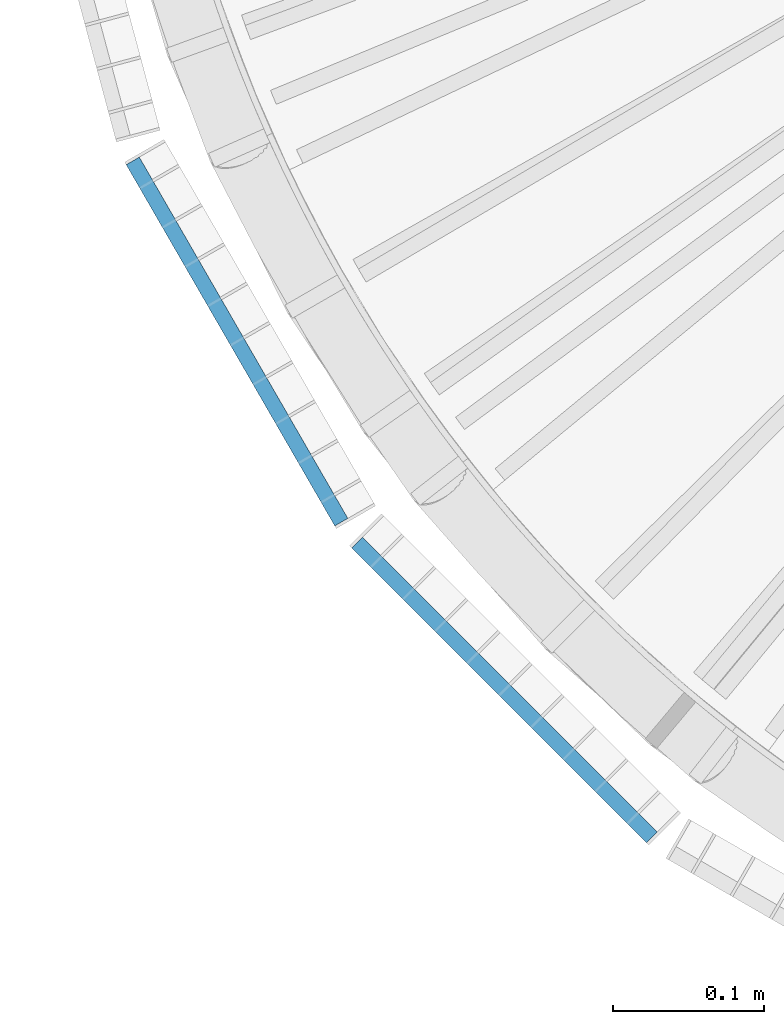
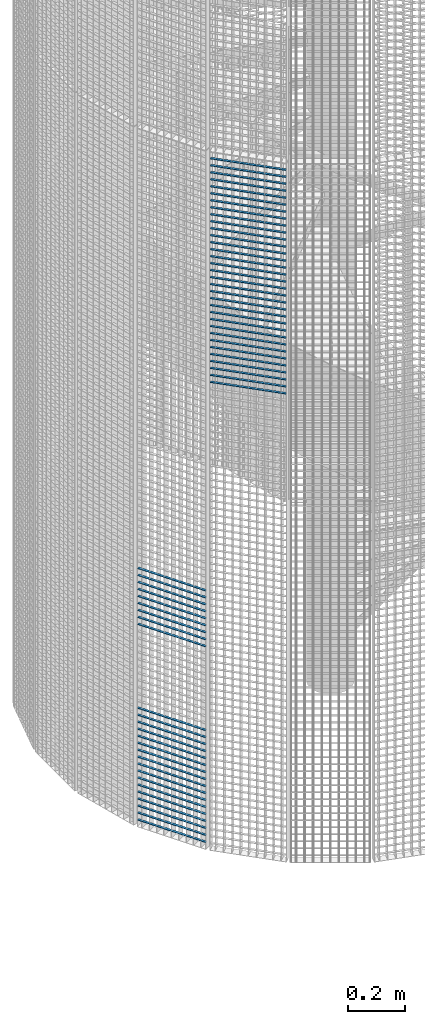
# One storey, part 368 of 1148: 59 beams, 2 elements without a shape of their own.
"""IFC2X3 building model written with IfcOpenShell, lengths in millimetres."""

import ifcopenshell
import ifcopenshell.guid

model = None  # the IFC model being written
_history = None  # IfcOwnerHistory: only IFC2X3 demands one
_inside = {}  # id of a spatial element -> (the spatial element, [elements in it])
_under = {}  # id of a project, library or spatial element -> (it, [spatial elements below it])
_declared = {}  # id of a project -> (the project, [libraries it declares])
_typed = {}  # id of a type object -> (the type object, [elements of that type])
_made_of = {}  # id of a material, layer set ... -> (it, [elements and type objects made of it])


def new_model(schema):
    """Start an empty IFC model of exactly this schema.

    Asked for "IFC4X3", IfcOpenShell would pick the latest addendum, in which some entities
    have other attributes; the version numbers below select the first issue.
    IFC2X3 requires an IfcOwnerHistory on every rooted entity: one is made here for all.
    """
    global model, _history
    if schema == "IFC4X3":
        model = ifcopenshell.file(schema_version=(4, 3, 0, 0))
    else:
        model = ifcopenshell.file(schema=schema)
    _inside.clear()
    _under.clear()
    _declared.clear()
    _typed.clear()
    _made_of.clear()
    _history = None
    if model.schema == "IFC2X3":
        org = make("IfcOrganization", Name="unknown")
        user = make(
            "IfcPersonAndOrganization",
            ThePerson=make("IfcPerson", FamilyName="unknown"),
            TheOrganization=org,
        )
        app = make(
            "IfcApplication",
            ApplicationDeveloper=org,
            Version="unknown",
            ApplicationFullName="unknown",
            ApplicationIdentifier="unknown",
        )
        _history = make(
            "IfcOwnerHistory",
            OwningUser=user,
            OwningApplication=app,
            ChangeAction="ADDED",
            CreationDate=0,
        )
    return model


def make(cls, **values):
    """One entity of the class cls with the attributes given. An attribute that is None is left unset."""
    return model.create_entity(
        cls, **{name: value for name, value in values.items() if value is not None}
    )


def rooted(cls, **values):
    """An entity with a GlobalId (a new one), such as an element, a storey or a relation."""
    return make(cls, GlobalId=ifcopenshell.guid.new(), OwnerHistory=_history, **values)


def si_unit(unit_type, name, prefix=None):
    """IfcSIUnit, for example si_unit("LENGTHUNIT", "METRE", prefix="MILLI")."""
    return make("IfcSIUnit", UnitType=unit_type, Prefix=prefix, Name=name)


def assignment(units):
    """IfcUnitAssignment: the units of a project."""
    return None if units is None else make("IfcUnitAssignment", Units=units)


def point(xyz):
    """IfcCartesianPoint."""
    return None if xyz is None else make("IfcCartesianPoint", Coordinates=xyz)


def direction(xyz):
    """IfcDirection."""
    return None if xyz is None else make("IfcDirection", DirectionRatios=xyz)


def frame(location, z_axis=None, x_axis=None):
    """IfcAxis2Placement3D, a coordinate frame: its origin and axes. An axis left out is left unset."""
    return make(
        "IfcAxis2Placement3D",
        Location=point(location),
        Axis=direction(z_axis),
        RefDirection=direction(x_axis),
    )


def frame_2d(location, x_axis=None):
    """IfcAxis2Placement2D, a coordinate frame in the plane: its origin and x axis."""
    return make(
        "IfcAxis2Placement2D", Location=point(location), RefDirection=direction(x_axis)
    )


def origin_with_axes():
    """The frame at (0, 0, 0) with the z axis (0, 0, 1) and the x axis (1, 0, 0) written out."""
    return frame((0.0, 0.0, 0.0), z_axis=(0.0, 0.0, 1.0), x_axis=(1.0, 0.0, 0.0))


def origin_2d_with_axis():
    """The frame at (0, 0) in the plane with the x axis (1, 0) written out."""
    return frame_2d((0.0, 0.0), x_axis=(1.0, 0.0))


def place(relative_to, where):
    """IfcLocalPlacement: puts the frame where relative to a parent placement (None: the world)."""
    return make(
        "IfcLocalPlacement", PlacementRelTo=relative_to, RelativePlacement=where
    )


def context(
    kind, dimensions, precision=None, world=None, true_north=None, identifier=None
):
    """IfcGeometricRepresentationContext, for example the 3D "Model" context."""
    return make(
        "IfcGeometricRepresentationContext",
        ContextIdentifier=identifier,
        ContextType=kind,
        CoordinateSpaceDimension=dimensions,
        Precision=precision,
        WorldCoordinateSystem=world,
        TrueNorth=true_north,
    )


def subcontext(parent, identifier, kind, view, scale=None):
    """IfcGeometricRepresentationSubContext, for example "Body" below "Model"."""
    return make(
        "IfcGeometricRepresentationSubContext",
        ContextIdentifier=identifier,
        ContextType=kind,
        ParentContext=parent,
        TargetScale=scale,
        TargetView=view,
    )


def project(units=None, contexts=None):
    """IfcProject with its units and contexts."""
    return rooted(
        "IfcProject",
        Name="project",
        RepresentationContexts=contexts,
        UnitsInContext=assignment(units),
    )


def spatial(cls, under=None, at=None, **own):
    """A site, building, storey or space (cls), placed at a placement, below another one or the project."""
    s = rooted(cls, ObjectPlacement=at, **own)
    if under is not None:
        _under.setdefault(under.id(), (under, []))[1].append(s)
    return s


def profile(cls, at=None, kind="AREA", **sizes):
    """A parametric profile (cls). Its sizes go by their IFC names, for example OverallWidth=200.0."""
    return make(cls, ProfileType=kind, Position=at, **sizes)


def rectangle(**sizes):
    """IfcRectangleProfileDef."""
    return profile("IfcRectangleProfileDef", **sizes)


def extrude(swept, where, along, depth):
    """IfcExtrudedAreaSolid: the profile swept, set in the frame where, extruded along a direction by depth."""
    return make(
        "IfcExtrudedAreaSolid",
        SweptArea=swept,
        Position=where,
        ExtrudedDirection=direction(along),
        Depth=depth,
    )


def shape(context_of_items, identifier, shape_type, items):
    """IfcShapeRepresentation: the items that make up one representation, for example the "Body"."""
    return make(
        "IfcShapeRepresentation",
        ContextOfItems=context_of_items,
        RepresentationIdentifier=identifier,
        RepresentationType=shape_type,
        Items=items,
    )


def material(Name=None, Category=None):
    """IfcMaterial."""
    return make("IfcMaterial", Name=Name, Category=Category)


def made_of(thing, what):
    """Note that an element or type object is made of a material, layer set ...; save() writes the relation."""
    if what is not None:
        _made_of.setdefault(what.id(), (what, []))[1].append(thing)
    return thing


def type_object(cls, material=None, **own):
    """A type object (cls), such as IfcWallType, which elements share."""
    return made_of(rooted(cls, **own), material)


def element(
    cls,
    number,
    at=None,
    inside=None,
    cuts=None,
    type_object=None,
    material=None,
    context=None,
    identifier="Body",
    shape_type=None,
    held_by="IfcProductDefinitionShape",
    body=None,
    shapes=None,
    **own,
):
    """One element of the class cls, such as IfcWall. Its Tag is "e" and its number.

    at: its placement. inside: the storey or other place that contains it. cuts: it is an
    opening in that element (IfcRelVoidsElement). A single representation is given by context,
    identifier, shape_type and body (its items); several are given by shapes. held_by: the class
    of the entity that holds the representations. save() writes the other relations.
    """
    e = rooted(cls, Tag="e%d" % number, ObjectPlacement=at, **own)
    if body is not None:
        shapes = [shape(context, identifier, shape_type, body)]
    if shapes is not None:
        e.Representation = make(held_by, Representations=shapes)
    if inside is not None:
        _inside.setdefault(inside.id(), (inside, []))[1].append(e)
    if cuts is not None:
        rooted(
            "IfcRelVoidsElement", RelatingBuildingElement=cuts, RelatedOpeningElement=e
        )
    if type_object is not None:
        _typed.setdefault(type_object.id(), (type_object, []))[1].append(e)
    return made_of(e, material)


def aggregate(whole, parts):
    """IfcRelAggregates: a whole, such as a stair, and the parts it consists of."""
    return rooted("IfcRelAggregates", RelatingObject=whole, RelatedObjects=parts)


def save(model, path):
    """Write the relations noted so far, then the file.

    IfcRelAggregates (storeys below a building ...), IfcRelContainedInSpatialStructure (elements
    in a storey), IfcRelDefinesByType, IfcRelAssociatesMaterial and IfcRelDeclares: one each for
    every whole, place, type object, material and project.
    """
    for whole, parts in _under.values():
        aggregate(whole, parts)
    for where, things in _inside.values():
        rooted(
            "IfcRelContainedInSpatialStructure",
            RelatedElements=things,
            RelatingStructure=where,
        )
    for kind, things in _typed.values():
        rooted("IfcRelDefinesByType", RelatedObjects=things, RelatingType=kind)
    for what, things in _made_of.values():
        rooted("IfcRelAssociatesMaterial", RelatedObjects=things, RelatingMaterial=what)
    for by, libraries in _declared.values():
        rooted("IfcRelDeclares", RelatingContext=by, RelatedDefinitions=libraries)
    model.write(path)


model = new_model("IFC2X3")

# Units and contexts
model_context = context("Model", 3, precision=1e-05, world=origin_with_axes())
body_context = subcontext(model_context, "Body", "Model", "MODEL_VIEW")
ifc_project = project(units=[si_unit("LENGTHUNIT", "METRE", prefix="MILLI"), si_unit("AREAUNIT", "SQUARE_METRE"), si_unit("VOLUMEUNIT", "CUBIC_METRE"), si_unit("MASSUNIT", "GRAM", prefix="KILO"), si_unit("TIMEUNIT", "SECOND"), si_unit("PLANEANGLEUNIT", "RADIAN"), si_unit("SOLIDANGLEUNIT", "STERADIAN"), si_unit("THERMODYNAMICTEMPERATUREUNIT", "DEGREE_CELSIUS"), si_unit("LUMINOUSINTENSITYUNIT", "LUMEN")], contexts=[model_context])

# Site, building, storey
site_placement = place(None, origin_with_axes())
site = spatial("IfcSite", under=ifc_project, at=site_placement, Name="Undefined", CompositionType="ELEMENT")
building_placement = place(site_placement, origin_with_axes())
building = spatial("IfcBuilding", under=site, at=building_placement, Name="Undefined", CompositionType="ELEMENT")
storey_placement = place(building_placement, origin_with_axes())
storey = spatial("IfcBuildingStorey", under=building, at=storey_placement, Name="Undefined", CompositionType="ELEMENT", Elevation=0.0)

# Assembly, beams
assembly_1_placement = place(storey_placement, origin_with_axes())
assembly_1 = element("IfcElementAssembly", 1, at=assembly_1_placement, inside=storey, Name="BORDURE", AssemblyPlace="NOTDEFINED", PredefinedType="NOTDEFINED")
ifc_material = material(Name="STEEL/S235JR")
beam_type = type_object("IfcBeamType", Name="PL2*10", PredefinedType="NOTDEFINED")
beam_1_placement = place(assembly_1_placement, frame((20704.6960350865, -676.248044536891, 509.999999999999), z_axis=(-0.866025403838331, -0.499999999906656, 0.0), x_axis=(-0.49999999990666, 0.866025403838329, 0.0)))
beam_1 = element("IfcBeam", 2, at=beam_1_placement, type_object=beam_type, material=ifc_material, Name="ENTRETOISE", context=body_context, shape_type="SweptSolid", body=[
    extrude(rectangle(XDim=2.0, YDim=10.0, at=origin_2d_with_axis()), frame((275.999999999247, 9.09494701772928e-13, 1.53210777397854e-14), z_axis=(-1.0, 0.0, 0.0), x_axis=(0.0, -1.0, 0.0)), (0.0, 0.0, 1.0), 276.0),
])
beam_2_placement = place(assembly_1_placement, frame((20704.6960350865, -676.248044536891, 479.999999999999), z_axis=(-0.866025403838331, -0.499999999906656, 0.0), x_axis=(-0.49999999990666, 0.866025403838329, 0.0)))
beam_2 = element("IfcBeam", 3, at=beam_2_placement, type_object=beam_type, material=ifc_material, Name="ENTRETOISE", context=body_context, shape_type="SweptSolid", body=[
    extrude(rectangle(XDim=2.0, YDim=10.0, at=origin_2d_with_axis()), frame((275.999999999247, 9.09494701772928e-13, 1.53210777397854e-14), z_axis=(-1.0, 0.0, 0.0), x_axis=(0.0, -1.0, 0.0)), (0.0, 0.0, 1.0), 276.0),
])
beam_3_placement = place(assembly_1_placement, frame((20704.6960350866, -676.248044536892, 869.999999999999), z_axis=(-0.866025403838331, -0.499999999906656, 0.0), x_axis=(-0.49999999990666, 0.866025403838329, 0.0)))
beam_3 = element("IfcBeam", 4, at=beam_3_placement, type_object=beam_type, material=ifc_material, Name="ENTRETOISE", context=body_context, shape_type="SweptSolid", body=[
    extrude(rectangle(XDim=2.0, YDim=10.0, at=origin_2d_with_axis()), frame((275.999999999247, 9.09494701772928e-13, 1.53210777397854e-14), z_axis=(-1.0, 0.0, 0.0), x_axis=(0.0, -1.0, 0.0)), (0.0, 0.0, 1.0), 276.0),
])
beam_4_placement = place(assembly_1_placement, frame((20704.6960350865, -676.248044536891, 449.999999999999), z_axis=(-0.866025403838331, -0.499999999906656, 0.0), x_axis=(-0.49999999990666, 0.866025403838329, 0.0)))
beam_4 = element("IfcBeam", 5, at=beam_4_placement, type_object=beam_type, material=ifc_material, Name="ENTRETOISE", context=body_context, shape_type="SweptSolid", body=[
    extrude(rectangle(XDim=2.0, YDim=10.0, at=origin_2d_with_axis()), frame((275.999999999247, 9.09494701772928e-13, 1.53210777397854e-14), z_axis=(-1.0, 0.0, 0.0), x_axis=(0.0, -1.0, 0.0)), (0.0, 0.0, 1.0), 276.0),
])
beam_5_placement = place(assembly_1_placement, frame((20704.6960350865, -676.24804453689, 419.999999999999), z_axis=(-0.866025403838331, -0.499999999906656, 0.0), x_axis=(-0.49999999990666, 0.866025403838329, 0.0)))
beam_5 = element("IfcBeam", 6, at=beam_5_placement, type_object=beam_type, material=ifc_material, Name="ENTRETOISE", context=body_context, shape_type="SweptSolid", body=[
    extrude(rectangle(XDim=2.0, YDim=10.0, at=origin_2d_with_axis()), frame((275.999999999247, 9.09494701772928e-13, 1.53210777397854e-14), z_axis=(-1.0, 0.0, 0.0), x_axis=(0.0, -1.0, 0.0)), (0.0, 0.0, 1.0), 276.0),
])
beam_6_placement = place(assembly_1_placement, frame((20704.6960350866, -676.248044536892, 899.999999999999), z_axis=(-0.866025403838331, -0.499999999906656, 0.0), x_axis=(-0.49999999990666, 0.866025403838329, 0.0)))
beam_6 = element("IfcBeam", 7, at=beam_6_placement, type_object=beam_type, material=ifc_material, Name="ENTRETOISE", context=body_context, shape_type="SweptSolid", body=[
    extrude(rectangle(XDim=2.0, YDim=10.0, at=origin_2d_with_axis()), frame((275.999999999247, 9.09494701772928e-13, 1.53210777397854e-14), z_axis=(-1.0, 0.0, 0.0), x_axis=(0.0, -1.0, 0.0)), (0.0, 0.0, 1.0), 276.0),
])
beam_7_placement = place(assembly_1_placement, frame((20704.6960350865, -676.24804453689, 389.999999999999), z_axis=(-0.866025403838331, -0.499999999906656, 0.0), x_axis=(-0.49999999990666, 0.866025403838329, 0.0)))
beam_7 = element("IfcBeam", 8, at=beam_7_placement, type_object=beam_type, material=ifc_material, Name="ENTRETOISE", context=body_context, shape_type="SweptSolid", body=[
    extrude(rectangle(XDim=2.0, YDim=10.0, at=origin_2d_with_axis()), frame((275.999999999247, 9.09494701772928e-13, 1.53210777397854e-14), z_axis=(-1.0, 0.0, 0.0), x_axis=(0.0, -1.0, 0.0)), (0.0, 0.0, 1.0), 276.0),
])
beam_8_placement = place(assembly_1_placement, frame((20704.6960350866, -676.248044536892, 929.999999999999), z_axis=(-0.866025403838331, -0.499999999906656, 0.0), x_axis=(-0.49999999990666, 0.866025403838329, 0.0)))
beam_8 = element("IfcBeam", 9, at=beam_8_placement, type_object=beam_type, material=ifc_material, Name="ENTRETOISE", context=body_context, shape_type="SweptSolid", body=[
    extrude(rectangle(XDim=2.0, YDim=10.0, at=origin_2d_with_axis()), frame((275.999999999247, 9.09494701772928e-13, 1.53210777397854e-14), z_axis=(-1.0, 0.0, 0.0), x_axis=(0.0, -1.0, 0.0)), (0.0, 0.0, 1.0), 276.0),
])
beam_9_placement = place(assembly_1_placement, frame((20704.6960350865, -676.24804453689, 359.999999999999), z_axis=(-0.866025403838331, -0.499999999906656, 0.0), x_axis=(-0.49999999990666, 0.866025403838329, 0.0)))
beam_9 = element("IfcBeam", 10, at=beam_9_placement, type_object=beam_type, material=ifc_material, Name="ENTRETOISE", context=body_context, shape_type="SweptSolid", body=[
    extrude(rectangle(XDim=2.0, YDim=10.0, at=origin_2d_with_axis()), frame((275.999999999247, 9.09494701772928e-13, 1.53210777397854e-14), z_axis=(-1.0, 0.0, 0.0), x_axis=(0.0, -1.0, 0.0)), (0.0, 0.0, 1.0), 276.0),
])
beam_10_placement = place(assembly_1_placement, frame((20704.6960350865, -676.24804453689, 329.999999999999), z_axis=(-0.866025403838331, -0.499999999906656, 0.0), x_axis=(-0.49999999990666, 0.866025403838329, 0.0)))
beam_10 = element("IfcBeam", 11, at=beam_10_placement, type_object=beam_type, material=ifc_material, Name="ENTRETOISE", context=body_context, shape_type="SweptSolid", body=[
    extrude(rectangle(XDim=2.0, YDim=10.0, at=origin_2d_with_axis()), frame((275.999999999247, 9.09494701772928e-13, 1.53210777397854e-14), z_axis=(-1.0, 0.0, 0.0), x_axis=(0.0, -1.0, 0.0)), (0.0, 0.0, 1.0), 276.0),
])
beam_11_placement = place(assembly_1_placement, frame((20704.6960350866, -676.248044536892, 959.999999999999), z_axis=(-0.866025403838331, -0.499999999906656, 0.0), x_axis=(-0.49999999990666, 0.866025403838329, 0.0)))
beam_11 = element("IfcBeam", 12, at=beam_11_placement, type_object=beam_type, material=ifc_material, Name="ENTRETOISE", context=body_context, shape_type="SweptSolid", body=[
    extrude(rectangle(XDim=2.0, YDim=10.0, at=origin_2d_with_axis()), frame((275.999999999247, 9.09494701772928e-13, 1.53210777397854e-14), z_axis=(-1.0, 0.0, 0.0), x_axis=(0.0, -1.0, 0.0)), (0.0, 0.0, 1.0), 276.0),
])
beam_12_placement = place(assembly_1_placement, frame((20704.6960350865, -676.24804453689, 299.999999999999), z_axis=(-0.866025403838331, -0.499999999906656, 0.0), x_axis=(-0.49999999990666, 0.866025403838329, 0.0)))
beam_12 = element("IfcBeam", 13, at=beam_12_placement, type_object=beam_type, material=ifc_material, Name="ENTRETOISE", context=body_context, shape_type="SweptSolid", body=[
    extrude(rectangle(XDim=2.0, YDim=10.0, at=origin_2d_with_axis()), frame((275.999999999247, 9.09494701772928e-13, 1.53210777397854e-14), z_axis=(-1.0, 0.0, 0.0), x_axis=(0.0, -1.0, 0.0)), (0.0, 0.0, 1.0), 276.0),
])
beam_13_placement = place(assembly_1_placement, frame((20704.6960350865, -676.24804453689, 269.999999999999), z_axis=(-0.866025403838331, -0.499999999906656, 0.0), x_axis=(-0.49999999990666, 0.866025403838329, 0.0)))
beam_13 = element("IfcBeam", 14, at=beam_13_placement, type_object=beam_type, material=ifc_material, Name="ENTRETOISE", context=body_context, shape_type="SweptSolid", body=[
    extrude(rectangle(XDim=2.0, YDim=10.0, at=origin_2d_with_axis()), frame((275.999999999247, 9.09494701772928e-13, 1.53210777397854e-14), z_axis=(-1.0, 0.0, 0.0), x_axis=(0.0, -1.0, 0.0)), (0.0, 0.0, 1.0), 276.0),
])
beam_14_placement = place(assembly_1_placement, frame((20704.6960350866, -676.248044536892, 989.999999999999), z_axis=(-0.866025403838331, -0.499999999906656, 0.0), x_axis=(-0.49999999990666, 0.866025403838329, 0.0)))
beam_14 = element("IfcBeam", 15, at=beam_14_placement, type_object=beam_type, material=ifc_material, Name="ENTRETOISE", context=body_context, shape_type="SweptSolid", body=[
    extrude(rectangle(XDim=2.0, YDim=10.0, at=origin_2d_with_axis()), frame((275.999999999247, 9.09494701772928e-13, 1.53210777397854e-14), z_axis=(-1.0, 0.0, 0.0), x_axis=(0.0, -1.0, 0.0)), (0.0, 0.0, 1.0), 276.0),
])
beam_15_placement = place(assembly_1_placement, frame((20704.6960350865, -676.24804453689, 239.999999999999), z_axis=(-0.866025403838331, -0.499999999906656, 0.0), x_axis=(-0.49999999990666, 0.866025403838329, 0.0)))
beam_15 = element("IfcBeam", 16, at=beam_15_placement, type_object=beam_type, material=ifc_material, Name="ENTRETOISE", context=body_context, shape_type="SweptSolid", body=[
    extrude(rectangle(XDim=2.0, YDim=10.0, at=origin_2d_with_axis()), frame((275.999999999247, 9.09494701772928e-13, 1.53210777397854e-14), z_axis=(-1.0, 0.0, 0.0), x_axis=(0.0, -1.0, 0.0)), (0.0, 0.0, 1.0), 276.0),
])
beam_16_placement = place(assembly_1_placement, frame((20704.6960350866, -676.248044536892, 1020.0), z_axis=(-0.866025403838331, -0.499999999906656, 0.0), x_axis=(-0.49999999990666, 0.866025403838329, 0.0)))
beam_16 = element("IfcBeam", 17, at=beam_16_placement, type_object=beam_type, material=ifc_material, Name="ENTRETOISE", context=body_context, shape_type="SweptSolid", body=[
    extrude(rectangle(XDim=2.0, YDim=10.0, at=origin_2d_with_axis()), frame((275.999999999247, 9.09494701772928e-13, 1.53210777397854e-14), z_axis=(-1.0, 0.0, 0.0), x_axis=(0.0, -1.0, 0.0)), (0.0, 0.0, 1.0), 276.0),
])
beam_17_placement = place(assembly_1_placement, frame((20704.6960350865, -676.24804453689, 209.999999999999), z_axis=(-0.866025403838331, -0.499999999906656, 0.0), x_axis=(-0.49999999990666, 0.866025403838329, 0.0)))
beam_17 = element("IfcBeam", 18, at=beam_17_placement, type_object=beam_type, material=ifc_material, Name="ENTRETOISE", context=body_context, shape_type="SweptSolid", body=[
    extrude(rectangle(XDim=2.0, YDim=10.0, at=origin_2d_with_axis()), frame((275.999999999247, 9.09494701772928e-13, 1.53210777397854e-14), z_axis=(-1.0, 0.0, 0.0), x_axis=(0.0, -1.0, 0.0)), (0.0, 0.0, 1.0), 276.0),
])
beam_18_placement = place(assembly_1_placement, frame((20704.6960350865, -676.24804453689, 179.999999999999), z_axis=(-0.866025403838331, -0.499999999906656, 0.0), x_axis=(-0.49999999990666, 0.866025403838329, 0.0)))
beam_18 = element("IfcBeam", 19, at=beam_18_placement, type_object=beam_type, material=ifc_material, Name="ENTRETOISE", context=body_context, shape_type="SweptSolid", body=[
    extrude(rectangle(XDim=2.0, YDim=10.0, at=origin_2d_with_axis()), frame((275.999999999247, 9.09494701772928e-13, 1.53210777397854e-14), z_axis=(-1.0, 0.0, 0.0), x_axis=(0.0, -1.0, 0.0)), (0.0, 0.0, 1.0), 276.0),
])
beam_19_placement = place(assembly_1_placement, frame((20704.6960350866, -676.248044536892, 1050.0), z_axis=(-0.866025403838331, -0.499999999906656, 0.0), x_axis=(-0.49999999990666, 0.866025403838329, 0.0)))
beam_19 = element("IfcBeam", 20, at=beam_19_placement, type_object=beam_type, material=ifc_material, Name="ENTRETOISE", context=body_context, shape_type="SweptSolid", body=[
    extrude(rectangle(XDim=2.0, YDim=10.0, at=origin_2d_with_axis()), frame((275.999999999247, 9.09494701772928e-13, 1.53210777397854e-14), z_axis=(-1.0, 0.0, 0.0), x_axis=(0.0, -1.0, 0.0)), (0.0, 0.0, 1.0), 276.0),
])
beam_20_placement = place(assembly_1_placement, frame((20704.6960350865, -676.24804453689, 149.999999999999), z_axis=(-0.866025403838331, -0.499999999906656, 0.0), x_axis=(-0.49999999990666, 0.866025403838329, 0.0)))
beam_20 = element("IfcBeam", 21, at=beam_20_placement, type_object=beam_type, material=ifc_material, Name="ENTRETOISE", context=body_context, shape_type="SweptSolid", body=[
    extrude(rectangle(XDim=2.0, YDim=10.0, at=origin_2d_with_axis()), frame((275.999999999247, 9.09494701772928e-13, 1.53210777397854e-14), z_axis=(-1.0, 0.0, 0.0), x_axis=(0.0, -1.0, 0.0)), (0.0, 0.0, 1.0), 276.0),
])
beam_21_placement = place(assembly_1_placement, frame((20704.6960350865, -676.24804453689, 119.999999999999), z_axis=(-0.866025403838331, -0.499999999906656, 0.0), x_axis=(-0.49999999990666, 0.866025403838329, 0.0)))
beam_21 = element("IfcBeam", 22, at=beam_21_placement, type_object=beam_type, material=ifc_material, Name="ENTRETOISE", context=body_context, shape_type="SweptSolid", body=[
    extrude(rectangle(XDim=2.0, YDim=10.0, at=origin_2d_with_axis()), frame((275.999999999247, 9.09494701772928e-13, 1.53210777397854e-14), z_axis=(-1.0, 0.0, 0.0), x_axis=(0.0, -1.0, 0.0)), (0.0, 0.0, 1.0), 276.0),
])
beam_22_placement = place(assembly_1_placement, frame((20704.6960350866, -676.248044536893, 1080.0), z_axis=(-0.866025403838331, -0.499999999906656, 0.0), x_axis=(-0.49999999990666, 0.866025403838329, 0.0)))
beam_22 = element("IfcBeam", 23, at=beam_22_placement, type_object=beam_type, material=ifc_material, Name="ENTRETOISE", context=body_context, shape_type="SweptSolid", body=[
    extrude(rectangle(XDim=2.0, YDim=10.0, at=origin_2d_with_axis()), frame((275.999999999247, 9.09494701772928e-13, 1.53210777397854e-14), z_axis=(-1.0, 0.0, 0.0), x_axis=(0.0, -1.0, 0.0)), (0.0, 0.0, 1.0), 276.0),
])
beam_23_placement = place(assembly_1_placement, frame((20704.6960350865, -676.248044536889, 89.9999999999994), z_axis=(-0.866025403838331, -0.499999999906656, 0.0), x_axis=(-0.49999999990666, 0.866025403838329, 0.0)))
beam_23 = element("IfcBeam", 24, at=beam_23_placement, type_object=beam_type, material=ifc_material, Name="ENTRETOISE", context=body_context, shape_type="SweptSolid", body=[
    extrude(rectangle(XDim=2.0, YDim=10.0, at=origin_2d_with_axis()), frame((275.999999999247, 9.09494701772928e-13, 1.53210777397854e-14), z_axis=(-1.0, 0.0, 0.0), x_axis=(0.0, -1.0, 0.0)), (0.0, 0.0, 1.0), 276.0),
])
beam_24_placement = place(assembly_1_placement, frame((20704.6960350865, -676.248044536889, 59.9999999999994), z_axis=(-0.866025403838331, -0.499999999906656, 0.0), x_axis=(-0.49999999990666, 0.866025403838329, 0.0)))
beam_24 = element("IfcBeam", 25, at=beam_24_placement, type_object=beam_type, material=ifc_material, Name="ENTRETOISE", context=body_context, shape_type="SweptSolid", body=[
    extrude(rectangle(XDim=2.0, YDim=10.0, at=origin_2d_with_axis()), frame((275.999999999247, 9.09494701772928e-13, 1.53210777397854e-14), z_axis=(-1.0, 0.0, 0.0), x_axis=(0.0, -1.0, 0.0)), (0.0, 0.0, 1.0), 276.0),
])
beam_25_placement = place(assembly_1_placement, frame((20704.6960350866, -676.248044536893, 1110.0), z_axis=(-0.866025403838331, -0.499999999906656, 0.0), x_axis=(-0.49999999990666, 0.866025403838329, 0.0)))
beam_25 = element("IfcBeam", 26, at=beam_25_placement, type_object=beam_type, material=ifc_material, Name="ENTRETOISE", context=body_context, shape_type="SweptSolid", body=[
    extrude(rectangle(XDim=2.0, YDim=10.0, at=origin_2d_with_axis()), frame((275.999999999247, 9.09494701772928e-13, 1.53210777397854e-14), z_axis=(-1.0, 0.0, 0.0), x_axis=(0.0, -1.0, 0.0)), (0.0, 0.0, 1.0), 276.0),
])
beam_26_placement = place(assembly_1_placement, frame((20704.6960350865, -676.248044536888, 29.9999999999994), z_axis=(-0.866025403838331, -0.499999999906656, 0.0), x_axis=(-0.49999999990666, 0.866025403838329, 0.0)))
beam_26 = element("IfcBeam", 27, at=beam_26_placement, type_object=beam_type, material=ifc_material, Name="ENTRETOISE", context=body_context, shape_type="SweptSolid", body=[
    extrude(rectangle(XDim=2.0, YDim=10.0, at=origin_2d_with_axis()), frame((275.999999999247, 9.09494701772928e-13, 1.53210777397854e-14), z_axis=(-1.0, 0.0, 0.0), x_axis=(0.0, -1.0, 0.0)), (0.0, 0.0, 1.0), 276.0),
])
aggregate(assembly_1, [beam_1, beam_2, beam_3, beam_4, beam_5, beam_6, beam_7, beam_8, beam_9, beam_10, beam_11, beam_12, beam_13, beam_14, beam_15, beam_16, beam_17, beam_18, beam_19, beam_20, beam_21, beam_22, beam_23, beam_24, beam_25, beam_26])

assembly_2_placement = place(storey_placement, origin_with_axes())
assembly_2 = element("IfcElementAssembly", 28, at=assembly_2_placement, inside=storey, Name="BORDURE", AssemblyPlace="NOTDEFINED", PredefinedType="NOTDEFINED")
beam_27_placement = place(assembly_2_placement, frame((20910.2286510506, -884.927168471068, 2970.0), z_axis=(-0.70710678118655, -0.707106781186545, 0.0), x_axis=(-0.707106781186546, 0.707106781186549, 0.0)))
beam_27 = element("IfcBeam", 29, at=beam_27_placement, type_object=beam_type, material=ifc_material, Name="ENTRETOISE", context=body_context, shape_type="SweptSolid", body=[
    extrude(rectangle(XDim=2.0, YDim=10.0, at=origin_2d_with_axis()), frame((275.999999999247, 9.09494701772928e-13, 1.53210777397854e-14), z_axis=(-1.0, 0.0, 0.0), x_axis=(0.0, -1.0, 0.0)), (0.0, 0.0, 1.0), 276.0),
])
beam_28_placement = place(assembly_2_placement, frame((20910.2286510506, -884.927168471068, 2940.0), z_axis=(-0.70710678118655, -0.707106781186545, 0.0), x_axis=(-0.707106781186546, 0.707106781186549, 0.0)))
beam_28 = element("IfcBeam", 30, at=beam_28_placement, type_object=beam_type, material=ifc_material, Name="ENTRETOISE", context=body_context, shape_type="SweptSolid", body=[
    extrude(rectangle(XDim=2.0, YDim=10.0, at=origin_2d_with_axis()), frame((275.999999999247, 9.09494701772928e-13, 1.53210777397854e-14), z_axis=(-1.0, 0.0, 0.0), x_axis=(0.0, -1.0, 0.0)), (0.0, 0.0, 1.0), 276.0),
])
beam_29_placement = place(assembly_2_placement, frame((20910.2286510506, -884.927168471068, 2910.0), z_axis=(-0.70710678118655, -0.707106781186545, 0.0), x_axis=(-0.707106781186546, 0.707106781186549, 0.0)))
beam_29 = element("IfcBeam", 31, at=beam_29_placement, type_object=beam_type, material=ifc_material, Name="ENTRETOISE", context=body_context, shape_type="SweptSolid", body=[
    extrude(rectangle(XDim=2.0, YDim=10.0, at=origin_2d_with_axis()), frame((275.999999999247, 9.09494701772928e-13, 1.53210777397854e-14), z_axis=(-1.0, 0.0, 0.0), x_axis=(0.0, -1.0, 0.0)), (0.0, 0.0, 1.0), 276.0),
])
beam_30_placement = place(assembly_2_placement, frame((20910.2286510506, -884.927168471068, 2880.0), z_axis=(-0.70710678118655, -0.707106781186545, 0.0), x_axis=(-0.707106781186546, 0.707106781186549, 0.0)))
beam_30 = element("IfcBeam", 32, at=beam_30_placement, type_object=beam_type, material=ifc_material, Name="ENTRETOISE", context=body_context, shape_type="SweptSolid", body=[
    extrude(rectangle(XDim=2.0, YDim=10.0, at=origin_2d_with_axis()), frame((275.999999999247, 9.09494701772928e-13, 1.53210777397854e-14), z_axis=(-1.0, 0.0, 0.0), x_axis=(0.0, -1.0, 0.0)), (0.0, 0.0, 1.0), 276.0),
])
beam_31_placement = place(assembly_2_placement, frame((20910.2286510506, -884.927168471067, 2850.0), z_axis=(-0.70710678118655, -0.707106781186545, 0.0), x_axis=(-0.707106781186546, 0.707106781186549, 0.0)))
beam_31 = element("IfcBeam", 33, at=beam_31_placement, type_object=beam_type, material=ifc_material, Name="ENTRETOISE", context=body_context, shape_type="SweptSolid", body=[
    extrude(rectangle(XDim=2.0, YDim=10.0, at=origin_2d_with_axis()), frame((275.999999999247, 9.09494701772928e-13, 1.53210777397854e-14), z_axis=(-1.0, 0.0, 0.0), x_axis=(0.0, -1.0, 0.0)), (0.0, 0.0, 1.0), 276.0),
])
beam_32_placement = place(assembly_2_placement, frame((20910.2286510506, -884.927168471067, 2820.0), z_axis=(-0.70710678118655, -0.707106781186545, 0.0), x_axis=(-0.707106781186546, 0.707106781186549, 0.0)))
beam_32 = element("IfcBeam", 34, at=beam_32_placement, type_object=beam_type, material=ifc_material, Name="ENTRETOISE", context=body_context, shape_type="SweptSolid", body=[
    extrude(rectangle(XDim=2.0, YDim=10.0, at=origin_2d_with_axis()), frame((275.999999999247, 9.09494701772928e-13, 1.53210777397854e-14), z_axis=(-1.0, 0.0, 0.0), x_axis=(0.0, -1.0, 0.0)), (0.0, 0.0, 1.0), 276.0),
])
beam_33_placement = place(assembly_2_placement, frame((20910.2286510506, -884.927168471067, 2790.0), z_axis=(-0.70710678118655, -0.707106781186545, 0.0), x_axis=(-0.707106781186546, 0.707106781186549, 0.0)))
beam_33 = element("IfcBeam", 35, at=beam_33_placement, type_object=beam_type, material=ifc_material, Name="ENTRETOISE", context=body_context, shape_type="SweptSolid", body=[
    extrude(rectangle(XDim=2.0, YDim=10.0, at=origin_2d_with_axis()), frame((275.999999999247, 9.09494701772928e-13, 1.53210777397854e-14), z_axis=(-1.0, 0.0, 0.0), x_axis=(0.0, -1.0, 0.0)), (0.0, 0.0, 1.0), 276.0),
])
beam_34_placement = place(assembly_2_placement, frame((20910.2286510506, -884.927168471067, 2760.0), z_axis=(-0.70710678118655, -0.707106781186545, 0.0), x_axis=(-0.707106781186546, 0.707106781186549, 0.0)))
beam_34 = element("IfcBeam", 36, at=beam_34_placement, type_object=beam_type, material=ifc_material, Name="ENTRETOISE", context=body_context, shape_type="SweptSolid", body=[
    extrude(rectangle(XDim=2.0, YDim=10.0, at=origin_2d_with_axis()), frame((275.999999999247, 9.09494701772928e-13, 1.53210777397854e-14), z_axis=(-1.0, 0.0, 0.0), x_axis=(0.0, -1.0, 0.0)), (0.0, 0.0, 1.0), 276.0),
])
beam_35_placement = place(assembly_2_placement, frame((20910.2286510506, -884.927168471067, 2730.0), z_axis=(-0.70710678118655, -0.707106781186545, 0.0), x_axis=(-0.707106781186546, 0.707106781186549, 0.0)))
beam_35 = element("IfcBeam", 37, at=beam_35_placement, type_object=beam_type, material=ifc_material, Name="ENTRETOISE", context=body_context, shape_type="SweptSolid", body=[
    extrude(rectangle(XDim=2.0, YDim=10.0, at=origin_2d_with_axis()), frame((275.999999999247, 9.09494701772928e-13, 1.53210777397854e-14), z_axis=(-1.0, 0.0, 0.0), x_axis=(0.0, -1.0, 0.0)), (0.0, 0.0, 1.0), 276.0),
])
beam_36_placement = place(assembly_2_placement, frame((20910.2286510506, -884.927168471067, 2700.0), z_axis=(-0.70710678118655, -0.707106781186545, 0.0), x_axis=(-0.707106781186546, 0.707106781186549, 0.0)))
beam_36 = element("IfcBeam", 38, at=beam_36_placement, type_object=beam_type, material=ifc_material, Name="ENTRETOISE", context=body_context, shape_type="SweptSolid", body=[
    extrude(rectangle(XDim=2.0, YDim=10.0, at=origin_2d_with_axis()), frame((275.999999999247, 9.09494701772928e-13, 1.53210777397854e-14), z_axis=(-1.0, 0.0, 0.0), x_axis=(0.0, -1.0, 0.0)), (0.0, 0.0, 1.0), 276.0),
])
beam_37_placement = place(assembly_2_placement, frame((20910.2286510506, -884.927168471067, 2670.0), z_axis=(-0.70710678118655, -0.707106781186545, 0.0), x_axis=(-0.707106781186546, 0.707106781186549, 0.0)))
beam_37 = element("IfcBeam", 39, at=beam_37_placement, type_object=beam_type, material=ifc_material, Name="ENTRETOISE", context=body_context, shape_type="SweptSolid", body=[
    extrude(rectangle(XDim=2.0, YDim=10.0, at=origin_2d_with_axis()), frame((275.999999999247, 9.09494701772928e-13, 1.53210777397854e-14), z_axis=(-1.0, 0.0, 0.0), x_axis=(0.0, -1.0, 0.0)), (0.0, 0.0, 1.0), 276.0),
])
beam_38_placement = place(assembly_2_placement, frame((20910.2286510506, -884.927168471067, 2640.0), z_axis=(-0.70710678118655, -0.707106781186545, 0.0), x_axis=(-0.707106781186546, 0.707106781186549, 0.0)))
beam_38 = element("IfcBeam", 40, at=beam_38_placement, type_object=beam_type, material=ifc_material, Name="ENTRETOISE", context=body_context, shape_type="SweptSolid", body=[
    extrude(rectangle(XDim=2.0, YDim=10.0, at=origin_2d_with_axis()), frame((275.999999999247, 9.09494701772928e-13, 1.53210777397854e-14), z_axis=(-1.0, 0.0, 0.0), x_axis=(0.0, -1.0, 0.0)), (0.0, 0.0, 1.0), 276.0),
])
beam_39_placement = place(assembly_2_placement, frame((20910.2286510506, -884.927168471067, 2610.0), z_axis=(-0.70710678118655, -0.707106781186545, 0.0), x_axis=(-0.707106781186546, 0.707106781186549, 0.0)))
beam_39 = element("IfcBeam", 41, at=beam_39_placement, type_object=beam_type, material=ifc_material, Name="ENTRETOISE", context=body_context, shape_type="SweptSolid", body=[
    extrude(rectangle(XDim=2.0, YDim=10.0, at=origin_2d_with_axis()), frame((275.999999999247, 9.09494701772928e-13, 1.53210777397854e-14), z_axis=(-1.0, 0.0, 0.0), x_axis=(0.0, -1.0, 0.0)), (0.0, 0.0, 1.0), 276.0),
])
beam_40_placement = place(assembly_2_placement, frame((20910.2286510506, -884.927168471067, 2580.0), z_axis=(-0.70710678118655, -0.707106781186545, 0.0), x_axis=(-0.707106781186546, 0.707106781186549, 0.0)))
beam_40 = element("IfcBeam", 42, at=beam_40_placement, type_object=beam_type, material=ifc_material, Name="ENTRETOISE", context=body_context, shape_type="SweptSolid", body=[
    extrude(rectangle(XDim=2.0, YDim=10.0, at=origin_2d_with_axis()), frame((275.999999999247, 9.09494701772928e-13, 1.53210777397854e-14), z_axis=(-1.0, 0.0, 0.0), x_axis=(0.0, -1.0, 0.0)), (0.0, 0.0, 1.0), 276.0),
])
beam_41_placement = place(assembly_2_placement, frame((20910.2286510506, -884.927168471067, 2550.0), z_axis=(-0.70710678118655, -0.707106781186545, 0.0), x_axis=(-0.707106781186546, 0.707106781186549, 0.0)))
beam_41 = element("IfcBeam", 43, at=beam_41_placement, type_object=beam_type, material=ifc_material, Name="ENTRETOISE", context=body_context, shape_type="SweptSolid", body=[
    extrude(rectangle(XDim=2.0, YDim=10.0, at=origin_2d_with_axis()), frame((275.999999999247, 9.09494701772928e-13, 1.53210777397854e-14), z_axis=(-1.0, 0.0, 0.0), x_axis=(0.0, -1.0, 0.0)), (0.0, 0.0, 1.0), 276.0),
])
beam_42_placement = place(assembly_2_placement, frame((20910.2286510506, -884.927168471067, 2520.0), z_axis=(-0.70710678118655, -0.707106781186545, 0.0), x_axis=(-0.707106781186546, 0.707106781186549, 0.0)))
beam_42 = element("IfcBeam", 44, at=beam_42_placement, type_object=beam_type, material=ifc_material, Name="ENTRETOISE", context=body_context, shape_type="SweptSolid", body=[
    extrude(rectangle(XDim=2.0, YDim=10.0, at=origin_2d_with_axis()), frame((275.999999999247, 9.09494701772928e-13, 1.53210777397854e-14), z_axis=(-1.0, 0.0, 0.0), x_axis=(0.0, -1.0, 0.0)), (0.0, 0.0, 1.0), 276.0),
])
beam_43_placement = place(assembly_2_placement, frame((20910.2286510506, -884.927168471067, 2490.0), z_axis=(-0.70710678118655, -0.707106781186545, 0.0), x_axis=(-0.707106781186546, 0.707106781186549, 0.0)))
beam_43 = element("IfcBeam", 45, at=beam_43_placement, type_object=beam_type, material=ifc_material, Name="ENTRETOISE", context=body_context, shape_type="SweptSolid", body=[
    extrude(rectangle(XDim=2.0, YDim=10.0, at=origin_2d_with_axis()), frame((275.999999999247, 9.09494701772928e-13, 1.53210777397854e-14), z_axis=(-1.0, 0.0, 0.0), x_axis=(0.0, -1.0, 0.0)), (0.0, 0.0, 1.0), 276.0),
])
beam_44_placement = place(assembly_2_placement, frame((20910.2286510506, -884.927168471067, 2460.0), z_axis=(-0.70710678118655, -0.707106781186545, 0.0), x_axis=(-0.707106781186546, 0.707106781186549, 0.0)))
beam_44 = element("IfcBeam", 46, at=beam_44_placement, type_object=beam_type, material=ifc_material, Name="ENTRETOISE", context=body_context, shape_type="SweptSolid", body=[
    extrude(rectangle(XDim=2.0, YDim=10.0, at=origin_2d_with_axis()), frame((275.999999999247, 9.09494701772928e-13, 1.53210777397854e-14), z_axis=(-1.0, 0.0, 0.0), x_axis=(0.0, -1.0, 0.0)), (0.0, 0.0, 1.0), 276.0),
])
beam_45_placement = place(assembly_2_placement, frame((20910.2286510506, -884.927168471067, 2430.0), z_axis=(-0.70710678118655, -0.707106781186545, 0.0), x_axis=(-0.707106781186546, 0.707106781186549, 0.0)))
beam_45 = element("IfcBeam", 47, at=beam_45_placement, type_object=beam_type, material=ifc_material, Name="ENTRETOISE", context=body_context, shape_type="SweptSolid", body=[
    extrude(rectangle(XDim=2.0, YDim=10.0, at=origin_2d_with_axis()), frame((275.999999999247, 9.09494701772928e-13, 1.53210777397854e-14), z_axis=(-1.0, 0.0, 0.0), x_axis=(0.0, -1.0, 0.0)), (0.0, 0.0, 1.0), 276.0),
])
beam_46_placement = place(assembly_2_placement, frame((20910.2286510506, -884.927168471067, 2400.0), z_axis=(-0.70710678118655, -0.707106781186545, 0.0), x_axis=(-0.707106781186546, 0.707106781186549, 0.0)))
beam_46 = element("IfcBeam", 48, at=beam_46_placement, type_object=beam_type, material=ifc_material, Name="ENTRETOISE", context=body_context, shape_type="SweptSolid", body=[
    extrude(rectangle(XDim=2.0, YDim=10.0, at=origin_2d_with_axis()), frame((275.999999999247, 9.09494701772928e-13, 1.53210777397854e-14), z_axis=(-1.0, 0.0, 0.0), x_axis=(0.0, -1.0, 0.0)), (0.0, 0.0, 1.0), 276.0),
])
beam_47_placement = place(assembly_2_placement, frame((20910.2286510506, -884.927168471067, 2370.0), z_axis=(-0.70710678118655, -0.707106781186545, 0.0), x_axis=(-0.707106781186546, 0.707106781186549, 0.0)))
beam_47 = element("IfcBeam", 49, at=beam_47_placement, type_object=beam_type, material=ifc_material, Name="ENTRETOISE", context=body_context, shape_type="SweptSolid", body=[
    extrude(rectangle(XDim=2.0, YDim=10.0, at=origin_2d_with_axis()), frame((275.999999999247, 9.09494701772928e-13, 1.53210777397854e-14), z_axis=(-1.0, 0.0, 0.0), x_axis=(0.0, -1.0, 0.0)), (0.0, 0.0, 1.0), 276.0),
])
beam_48_placement = place(assembly_2_placement, frame((20910.2286510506, -884.927168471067, 2340.0), z_axis=(-0.70710678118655, -0.707106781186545, 0.0), x_axis=(-0.707106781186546, 0.707106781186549, 0.0)))
beam_48 = element("IfcBeam", 50, at=beam_48_placement, type_object=beam_type, material=ifc_material, Name="ENTRETOISE", context=body_context, shape_type="SweptSolid", body=[
    extrude(rectangle(XDim=2.0, YDim=10.0, at=origin_2d_with_axis()), frame((275.999999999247, 9.09494701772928e-13, 1.53210777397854e-14), z_axis=(-1.0, 0.0, 0.0), x_axis=(0.0, -1.0, 0.0)), (0.0, 0.0, 1.0), 276.0),
])
beam_49_placement = place(assembly_2_placement, frame((20910.2286510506, -884.927168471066, 2310.0), z_axis=(-0.70710678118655, -0.707106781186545, 0.0), x_axis=(-0.707106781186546, 0.707106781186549, 0.0)))
beam_49 = element("IfcBeam", 51, at=beam_49_placement, type_object=beam_type, material=ifc_material, Name="ENTRETOISE", context=body_context, shape_type="SweptSolid", body=[
    extrude(rectangle(XDim=2.0, YDim=10.0, at=origin_2d_with_axis()), frame((275.999999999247, 9.09494701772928e-13, 1.53210777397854e-14), z_axis=(-1.0, 0.0, 0.0), x_axis=(0.0, -1.0, 0.0)), (0.0, 0.0, 1.0), 276.0),
])
beam_50_placement = place(assembly_2_placement, frame((20910.2286510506, -884.927168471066, 2280.0), z_axis=(-0.70710678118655, -0.707106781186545, 0.0), x_axis=(-0.707106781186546, 0.707106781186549, 0.0)))
beam_50 = element("IfcBeam", 52, at=beam_50_placement, type_object=beam_type, material=ifc_material, Name="ENTRETOISE", context=body_context, shape_type="SweptSolid", body=[
    extrude(rectangle(XDim=2.0, YDim=10.0, at=origin_2d_with_axis()), frame((275.999999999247, 9.09494701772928e-13, 1.53210777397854e-14), z_axis=(-1.0, 0.0, 0.0), x_axis=(0.0, -1.0, 0.0)), (0.0, 0.0, 1.0), 276.0),
])
beam_51_placement = place(assembly_2_placement, frame((20910.2286510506, -884.927168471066, 2250.0), z_axis=(-0.70710678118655, -0.707106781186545, 0.0), x_axis=(-0.707106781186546, 0.707106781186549, 0.0)))
beam_51 = element("IfcBeam", 53, at=beam_51_placement, type_object=beam_type, material=ifc_material, Name="ENTRETOISE", context=body_context, shape_type="SweptSolid", body=[
    extrude(rectangle(XDim=2.0, YDim=10.0, at=origin_2d_with_axis()), frame((275.999999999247, 9.09494701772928e-13, 1.53210777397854e-14), z_axis=(-1.0, 0.0, 0.0), x_axis=(0.0, -1.0, 0.0)), (0.0, 0.0, 1.0), 276.0),
])
beam_52_placement = place(assembly_2_placement, frame((20910.2286510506, -884.927168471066, 2220.0), z_axis=(-0.70710678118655, -0.707106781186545, 0.0), x_axis=(-0.707106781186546, 0.707106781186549, 0.0)))
beam_52 = element("IfcBeam", 54, at=beam_52_placement, type_object=beam_type, material=ifc_material, Name="ENTRETOISE", context=body_context, shape_type="SweptSolid", body=[
    extrude(rectangle(XDim=2.0, YDim=10.0, at=origin_2d_with_axis()), frame((275.999999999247, 9.09494701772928e-13, 1.53210777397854e-14), z_axis=(-1.0, 0.0, 0.0), x_axis=(0.0, -1.0, 0.0)), (0.0, 0.0, 1.0), 276.0),
])
beam_53_placement = place(assembly_2_placement, frame((20910.2286510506, -884.927168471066, 2190.0), z_axis=(-0.70710678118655, -0.707106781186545, 0.0), x_axis=(-0.707106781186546, 0.707106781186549, 0.0)))
beam_53 = element("IfcBeam", 55, at=beam_53_placement, type_object=beam_type, material=ifc_material, Name="ENTRETOISE", context=body_context, shape_type="SweptSolid", body=[
    extrude(rectangle(XDim=2.0, YDim=10.0, at=origin_2d_with_axis()), frame((275.999999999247, 9.09494701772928e-13, 1.53210777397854e-14), z_axis=(-1.0, 0.0, 0.0), x_axis=(0.0, -1.0, 0.0)), (0.0, 0.0, 1.0), 276.0),
])
beam_54_placement = place(assembly_2_placement, frame((20910.2286510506, -884.927168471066, 2160.0), z_axis=(-0.70710678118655, -0.707106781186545, 0.0), x_axis=(-0.707106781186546, 0.707106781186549, 0.0)))
beam_54 = element("IfcBeam", 56, at=beam_54_placement, type_object=beam_type, material=ifc_material, Name="ENTRETOISE", context=body_context, shape_type="SweptSolid", body=[
    extrude(rectangle(XDim=2.0, YDim=10.0, at=origin_2d_with_axis()), frame((275.999999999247, 9.09494701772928e-13, 1.53210777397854e-14), z_axis=(-1.0, 0.0, 0.0), x_axis=(0.0, -1.0, 0.0)), (0.0, 0.0, 1.0), 276.0),
])
beam_55_placement = place(assembly_2_placement, frame((20910.2286510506, -884.927168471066, 2130.0), z_axis=(-0.70710678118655, -0.707106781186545, 0.0), x_axis=(-0.707106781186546, 0.707106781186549, 0.0)))
beam_55 = element("IfcBeam", 57, at=beam_55_placement, type_object=beam_type, material=ifc_material, Name="ENTRETOISE", context=body_context, shape_type="SweptSolid", body=[
    extrude(rectangle(XDim=2.0, YDim=10.0, at=origin_2d_with_axis()), frame((275.999999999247, 9.09494701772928e-13, 1.53210777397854e-14), z_axis=(-1.0, 0.0, 0.0), x_axis=(0.0, -1.0, 0.0)), (0.0, 0.0, 1.0), 276.0),
])
beam_56_placement = place(assembly_2_placement, frame((20910.2286510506, -884.927168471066, 2100.0), z_axis=(-0.70710678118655, -0.707106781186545, 0.0), x_axis=(-0.707106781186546, 0.707106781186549, 0.0)))
beam_56 = element("IfcBeam", 58, at=beam_56_placement, type_object=beam_type, material=ifc_material, Name="ENTRETOISE", context=body_context, shape_type="SweptSolid", body=[
    extrude(rectangle(XDim=2.0, YDim=10.0, at=origin_2d_with_axis()), frame((275.999999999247, 9.09494701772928e-13, 1.53210777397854e-14), z_axis=(-1.0, 0.0, 0.0), x_axis=(0.0, -1.0, 0.0)), (0.0, 0.0, 1.0), 276.0),
])
beam_57_placement = place(assembly_2_placement, frame((20910.2286510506, -884.927168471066, 2070.0), z_axis=(-0.70710678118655, -0.707106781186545, 0.0), x_axis=(-0.707106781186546, 0.707106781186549, 0.0)))
beam_57 = element("IfcBeam", 59, at=beam_57_placement, type_object=beam_type, material=ifc_material, Name="ENTRETOISE", context=body_context, shape_type="SweptSolid", body=[
    extrude(rectangle(XDim=2.0, YDim=10.0, at=origin_2d_with_axis()), frame((275.999999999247, 9.09494701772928e-13, 1.53210777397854e-14), z_axis=(-1.0, 0.0, 0.0), x_axis=(0.0, -1.0, 0.0)), (0.0, 0.0, 1.0), 276.0),
])
beam_58_placement = place(assembly_2_placement, frame((20910.2286510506, -884.927168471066, 2040.0), z_axis=(-0.70710678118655, -0.707106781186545, 0.0), x_axis=(-0.707106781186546, 0.707106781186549, 0.0)))
beam_58 = element("IfcBeam", 60, at=beam_58_placement, type_object=beam_type, material=ifc_material, Name="ENTRETOISE", context=body_context, shape_type="SweptSolid", body=[
    extrude(rectangle(XDim=2.0, YDim=10.0, at=origin_2d_with_axis()), frame((275.999999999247, 9.09494701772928e-13, 1.53210777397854e-14), z_axis=(-1.0, 0.0, 0.0), x_axis=(0.0, -1.0, 0.0)), (0.0, 0.0, 1.0), 276.0),
])
beam_59_placement = place(assembly_2_placement, frame((20910.2286510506, -884.927168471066, 2010.0), z_axis=(-0.70710678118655, -0.707106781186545, 0.0), x_axis=(-0.707106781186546, 0.707106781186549, 0.0)))
beam_59 = element("IfcBeam", 61, at=beam_59_placement, type_object=beam_type, material=ifc_material, Name="ENTRETOISE", context=body_context, shape_type="SweptSolid", body=[
    extrude(rectangle(XDim=2.0, YDim=10.0, at=origin_2d_with_axis()), frame((275.999999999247, 9.09494701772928e-13, 1.53210777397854e-14), z_axis=(-1.0, 0.0, 0.0), x_axis=(0.0, -1.0, 0.0)), (0.0, 0.0, 1.0), 276.0),
])
aggregate(assembly_2, [beam_27, beam_28, beam_29, beam_30, beam_31, beam_32, beam_33, beam_34, beam_35, beam_36, beam_37, beam_38, beam_39, beam_40, beam_41, beam_42, beam_43, beam_44, beam_45, beam_46, beam_47, beam_48, beam_49, beam_50, beam_51, beam_52, beam_53, beam_54, beam_55, beam_56, beam_57, beam_58, beam_59])

save(model, "model.ifc")
